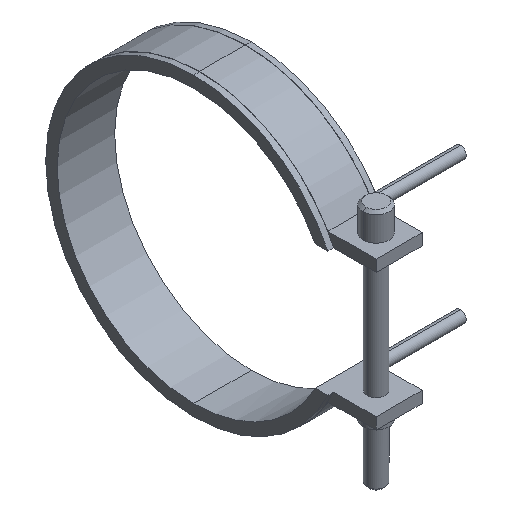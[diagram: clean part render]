
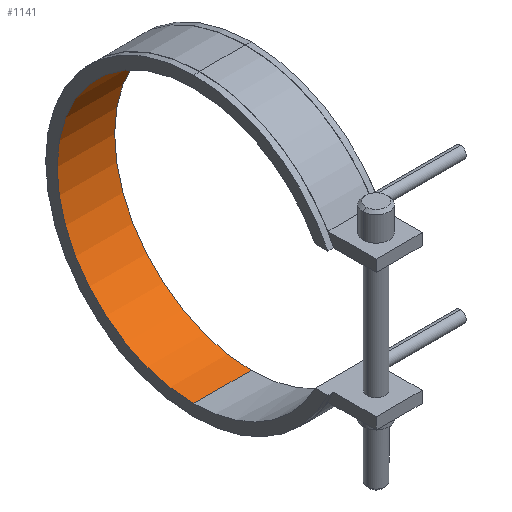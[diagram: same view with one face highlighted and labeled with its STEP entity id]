
A CAD part, isometric view. The second image highlights one B-rep face of the part: STEP entity #1141.
In plain terms, the highlighted cylindrical face has radius 47.5 mm (diameter 95 mm), a partial arc.
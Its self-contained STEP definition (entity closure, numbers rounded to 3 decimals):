
#822=CARTESIAN_POINT('Vertex',(-10.,0.,-47.5)) ;
#829=CARTESIAN_POINT('Vertex',(10.,0.,-47.5)) ;
#832=CARTESIAN_POINT('Line Origine',(10.,0.,-47.5)) ;
#850=CARTESIAN_POINT('Axis2P3D Location',(-10.,0.,0.)) ;
#854=CARTESIAN_POINT('Vertex',(-10.,0.,47.5)) ;
#911=CARTESIAN_POINT('Vertex',(10.,0.,47.5)) ;
#921=CARTESIAN_POINT('Line Origine',(10.,0.,47.5)) ;
#1012=CARTESIAN_POINT('Axis2P3D Location',(10.,0.,0.)) ;
#1130=CARTESIAN_POINT('Axis2P3D Location',(10.,0.,0.)) ;
#833=DIRECTION('Vector Direction',(1.,0.,0.)) ;
#851=DIRECTION('Axis2P3D Direction',(1.,0.,0.)) ;
#922=DIRECTION('Vector Direction',(1.,0.,0.)) ;
#1013=DIRECTION('Axis2P3D Direction',(1.,0.,0.)) ;
#1131=DIRECTION('Axis2P3D Direction',(1.,0.,-0.)) ;
#1132=DIRECTION('Axis2P3D XDirection',(0.,0.,-1.)) ;
#852=AXIS2_PLACEMENT_3D('Circle Axis2P3D',#850,#851,$) ;
#1014=AXIS2_PLACEMENT_3D('Circle Axis2P3D',#1012,#1013,$) ;
#1133=AXIS2_PLACEMENT_3D('Cylinder Axis2P3D',#1130,#1131,#1132) ;
#1136=ORIENTED_EDGE('',*,*,#1016,.T.) ;
#1137=ORIENTED_EDGE('',*,*,#925,.T.) ;
#1138=ORIENTED_EDGE('',*,*,#856,.F.) ;
#1139=ORIENTED_EDGE('',*,*,#836,.T.) ;
#834=VECTOR('Line Direction',#833,1.) ;
#923=VECTOR('Line Direction',#922,1.) ;
#1141=ADVANCED_FACE('14095020',(#1140),#1134,.F.) ;
#853=CIRCLE('generated circle',#852,47.5) ;
#1015=CIRCLE('generated circle',#1014,47.5) ;
#1134=CYLINDRICAL_SURFACE('generated cylinder',#1133,47.5) ;
#836=EDGE_CURVE('',#823,#830,#835,.T.) ;
#856=EDGE_CURVE('',#823,#855,#853,.T.) ;
#925=EDGE_CURVE('',#912,#855,#924,.F.) ;
#1016=EDGE_CURVE('',#830,#912,#1015,.T.) ;
#1135=EDGE_LOOP('',(#1136,#1137,#1138,#1139)) ;
#1140=FACE_OUTER_BOUND('',#1135,.T.) ;
#835=LINE('Line',#832,#834) ;
#924=LINE('Line',#921,#923) ;
#823=VERTEX_POINT('',#822) ;
#830=VERTEX_POINT('',#829) ;
#855=VERTEX_POINT('',#854) ;
#912=VERTEX_POINT('',#911) ;
